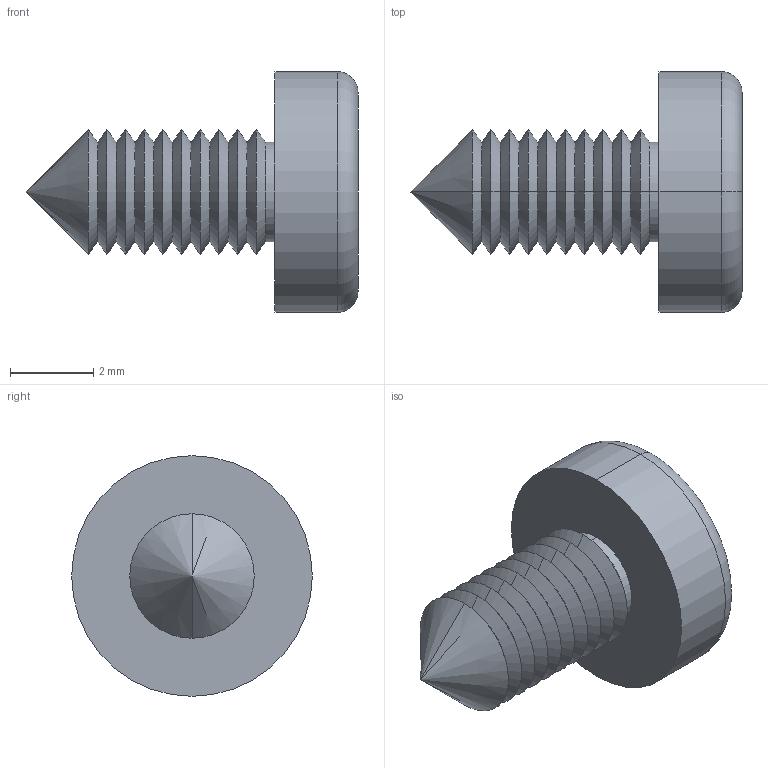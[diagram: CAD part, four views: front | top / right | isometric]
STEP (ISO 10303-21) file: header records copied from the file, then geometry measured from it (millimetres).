
FILE_DESCRIPTION (( 'STEP AP214' ), '1' );
FILE_NAME ('Cargol 3x8.STEP', '2017-08-01T08:09:09', ( 'aaa' ), ( '' ), 'SwSTEP 2.0', 'SolidWorks 2013', '' );
FILE_SCHEMA (( 'AUTOMOTIVE_DESIGN' ));
Length unit declared in the file: millimetre
Products named in the file (1): Cargol 3x8
Bounding box: 8 x 5.8 x 5.8 mm (x, y, z)
Volume: 80.2 mm3; surface area: 156.3 mm2
Topology: 1 solids, 1 shells, 61 faces, 132 edges, 73 vertices
Faces by surface type: cone 42, plane 15, torus 2, cylinder 2
Entity records: 1640 total; most frequent: DIRECTION 304, CARTESIAN_POINT 265, ORIENTED_EDGE 260, EDGE_CURVE 130, AXIS2_PLACEMENT_3D 112, VECTOR 80, LINE 80, VERTEX_POINT 73
